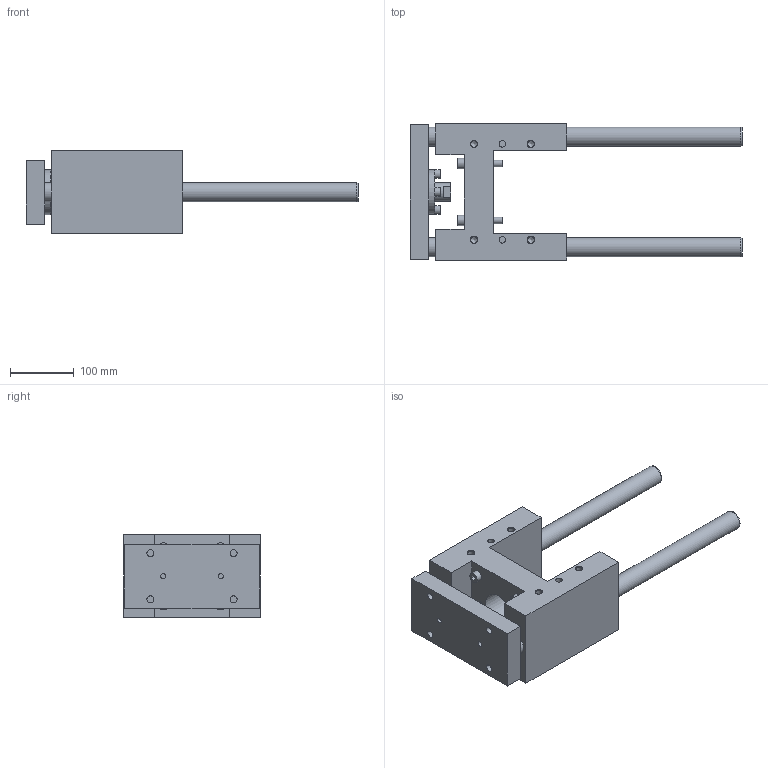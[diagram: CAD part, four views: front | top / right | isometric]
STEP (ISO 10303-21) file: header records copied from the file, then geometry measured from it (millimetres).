
FILE_DESCRIPTION( ( 'STEP AP214' ), '1' );
FILE_NAME( 'U:/Etudes/Top Solid/BIBLIO 3D AVM/TOP/PNEUMATIQUE/GUIDAGES/Type 32 (en H)/R_Renforcée/329R5130.step', '2005-05-27T09:21:22', ( ' ' ), ( ' ' ), 'XStep 1.0', ' ', ' ' );
FILE_SCHEMA( ( 'automotive_design' ) );
Length unit declared in the file: metre
Products named in the file (2): 1; 2
Bounding box: 519 x 213 x 129 mm (x, y, z)
Volume: 3948264.2 mm3; surface area: 428704.6 mm2
Topology: 2 solids, 7 shells, 207 faces, 460 edges, 303 vertices
Faces by surface type: plane 118, cylinder 68, cone 21
Full cylindrical faces by diameter (mm): 8 x10, 8.5 x4, 10 x10, 10.106 x12, 11 x8, 13 x4, 16 x4, 18 x4, 18.376 x2, 29 x1, 30 x4, 32 x1, 42 x1, 45 x1, 55 x1, 70 x1
Entity records: 6989 total; most frequent: CARTESIAN_POINT 1089, DIRECTION 880, ORIENTED_EDGE 678, EDGE_LOOP 360, AXIS2_PLACEMENT_3D 340, EDGE_CURVE 339, VERTEX_POINT 277, FACE_OUTER_BOUND 275
